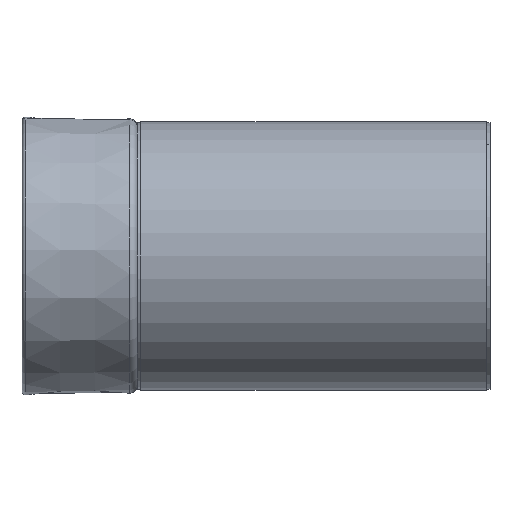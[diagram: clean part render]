
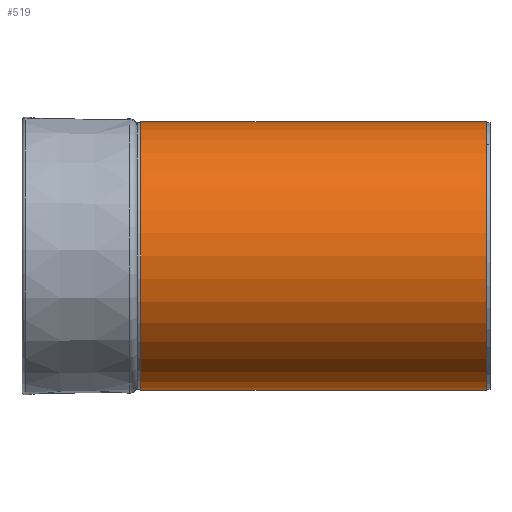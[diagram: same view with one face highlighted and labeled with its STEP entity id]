
A CAD part, left-side view. The second image highlights one B-rep face of the part: STEP entity #519.
In plain terms, the highlighted cylindrical face has radius 35 mm (diameter 70 mm), a partial arc.
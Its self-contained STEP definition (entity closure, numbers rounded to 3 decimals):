
#57 = CARTESIAN_POINT ( 'NONE',  ( -17.743, -38.715, 5.093 ) ) ;
#116 = EDGE_CURVE ( 'NONE', #876, #1176, #570, .T. ) ;
#128 = CARTESIAN_POINT ( 'NONE',  ( -17.743, -38.715, 40.093 ) ) ;
#312 = DIRECTION ( 'NONE',  ( 0., 1., 0. ) ) ;
#315 = ORIENTED_EDGE ( 'NONE', *, *, #931, .T. ) ;
#357 = CYLINDRICAL_SURFACE ( 'NONE', #439, 35. ) ;
#361 = EDGE_CURVE ( 'NONE', #1099, #1176, #979, .T. ) ;
#376 = CARTESIAN_POINT ( 'NONE',  ( -17.743, -38.715, 5.093 ) ) ;
#428 = DIRECTION ( 'NONE',  ( 0., 1., 0. ) ) ;
#436 = EDGE_CURVE ( 'NONE', #1143, #876, #541, .T. ) ;
#439 = AXIS2_PLACEMENT_3D ( 'NONE', #57, #428, #520 ) ;
#496 = CARTESIAN_POINT ( 'NONE',  ( -17.743, 51.285, -29.907 ) ) ;
#498 = EDGE_LOOP ( 'NONE', ( #728, #315, #729, #599 ) ) ;
#519 = ADVANCED_FACE ( 'NONE', ( #836 ), #357, .T. ) ;
#520 = DIRECTION ( 'NONE',  ( 0., 0., 1. ) ) ;
#541 = LINE ( 'NONE', #857, #962 ) ;
#570 = CIRCLE ( 'NONE', #838, 35. ) ;
#592 = CARTESIAN_POINT ( 'NONE',  ( -17.743, -38.715, -29.907 ) ) ;
#599 = ORIENTED_EDGE ( 'NONE', *, *, #116, .F. ) ;
#646 = CIRCLE ( 'NONE', #1075, 35. ) ;
#696 = CARTESIAN_POINT ( 'NONE',  ( -17.743, 51.285, 5.093 ) ) ;
#728 = ORIENTED_EDGE ( 'NONE', *, *, #436, .F. ) ;
#729 = ORIENTED_EDGE ( 'NONE', *, *, #361, .T. ) ;
#762 = DIRECTION ( 'NONE',  ( 0., 1., 0. ) ) ;
#836 = FACE_OUTER_BOUND ( 'NONE', #498, .T. ) ;
#838 = AXIS2_PLACEMENT_3D ( 'NONE', #696, #1058, #1165 ) ;
#857 = CARTESIAN_POINT ( 'NONE',  ( -17.743, -38.715, -29.907 ) ) ;
#876 = VERTEX_POINT ( 'NONE', #496 ) ;
#931 = EDGE_CURVE ( 'NONE', #1143, #1099, #646, .T. ) ;
#962 = VECTOR ( 'NONE', #312, 1000. ) ;
#979 = LINE ( 'NONE', #1014, #1187 ) ;
#1002 = DIRECTION ( 'NONE',  ( 0., 0., 1. ) ) ;
#1014 = CARTESIAN_POINT ( 'NONE',  ( -17.743, -38.715, 40.093 ) ) ;
#1058 = DIRECTION ( 'NONE',  ( 0., 1., 0. ) ) ;
#1075 = AXIS2_PLACEMENT_3D ( 'NONE', #376, #1092, #1002 ) ;
#1092 = DIRECTION ( 'NONE',  ( 0., 1., 0. ) ) ;
#1099 = VERTEX_POINT ( 'NONE', #128 ) ;
#1136 = CARTESIAN_POINT ( 'NONE',  ( -17.743, 51.285, 40.093 ) ) ;
#1143 = VERTEX_POINT ( 'NONE', #592 ) ;
#1165 = DIRECTION ( 'NONE',  ( 0., 0., 1. ) ) ;
#1176 = VERTEX_POINT ( 'NONE', #1136 ) ;
#1187 = VECTOR ( 'NONE', #762, 1000. ) ;
